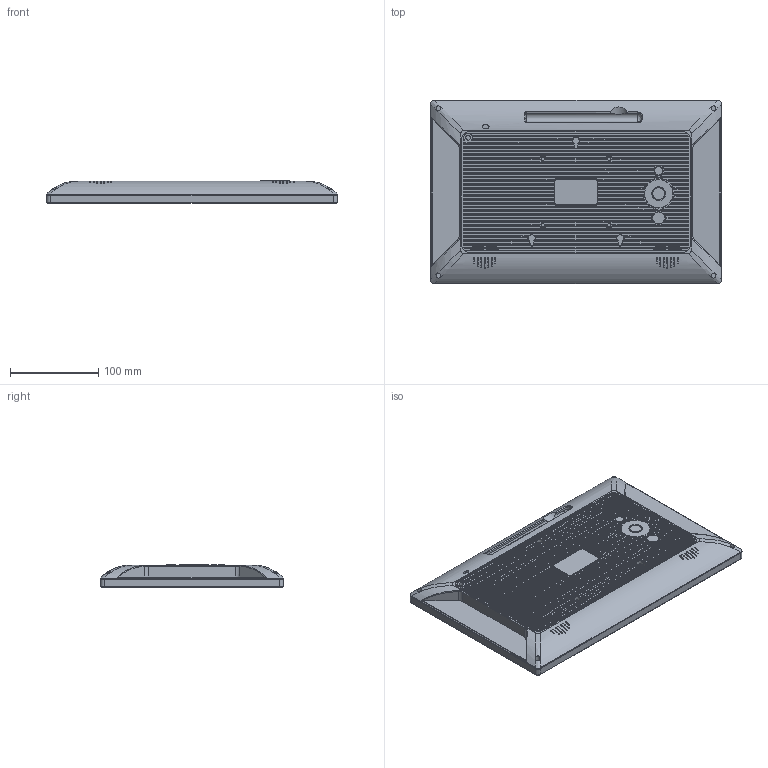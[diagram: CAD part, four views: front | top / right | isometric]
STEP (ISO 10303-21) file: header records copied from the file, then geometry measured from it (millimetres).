
FILE_DESCRIPTION((''),'2;1');
FILE_NAME('0811-3','2018-08-11T',('Administrator'),(''),'PRO/ENGINEER BY PARAMETRIC TECHNOLOGY CORPORATION, 2001280','PRO/ENGINEER BY PARAMETRIC TECHNOLOGY CORPORATION, 2001280','');
FILE_SCHEMA(('CONFIG_CONTROL_DESIGN'));
Length unit declared in the file: millimetre
Products named in the file (1): 0811-3
Bounding box: 329.9 x 207.9 x 25.5 mm (x, y, z)
Volume: 1457942.4 mm3; surface area: 172040.7 mm2
Topology: 1 solids, 1 shells, 828 faces, 2155 edges, 1416 vertices
Faces by surface type: plane 527, cylinder 247, bspline 29, torus 13, cone 12
Entity records: 26744 total; most frequent: CARTESIAN_POINT 6226, ORIENTED_EDGE 4310, DIRECTION 4141, EDGE_CURVE 2155, VECTOR 1527, LINE 1527, VERTEX_POINT 1416, AXIS2_PLACEMENT_3D 1307
